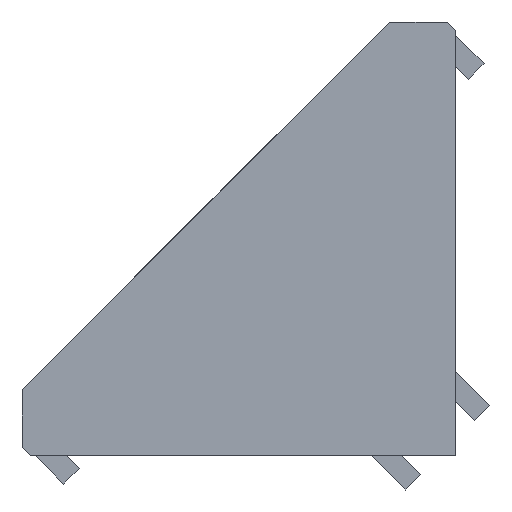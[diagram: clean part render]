
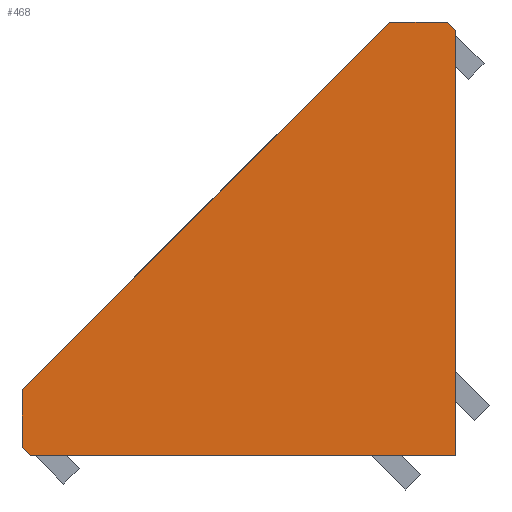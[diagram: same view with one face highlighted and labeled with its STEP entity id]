
A CAD part, left-side view. The second image highlights one B-rep face of the part: STEP entity #468.
In plain terms, the highlighted planar face has unit normal (-1, 0, 0).
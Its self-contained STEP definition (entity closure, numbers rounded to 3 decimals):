
#227 = VERTEX_POINT ( 'NONE', #7505 ) ;
#235 = VERTEX_POINT ( 'NONE', #7504 ) ;
#321 = ORIENTED_EDGE ( 'NONE', *, *, #458, .F. ) ;
#323 = VERTEX_POINT ( 'NONE', #7820 ) ;
#330 = VERTEX_POINT ( 'NONE', #7853 ) ;
#343 = EDGE_LOOP ( 'NONE', ( #321, #439, #450, #422, #386, #388, #428 ) ) ;
#350 = EDGE_CURVE ( 'NONE', #472, #227, #7849, .T. ) ;
#379 = EDGE_CURVE ( 'NONE', #227, #235, #7952, .T. ) ;
#383 = VERTEX_POINT ( 'NONE', #7989 ) ;
#386 = ORIENTED_EDGE ( 'NONE', *, *, #379, .F. ) ;
#388 = ORIENTED_EDGE ( 'NONE', *, *, #350, .F. ) ;
#396 = VERTEX_POINT ( 'NONE', #8051 ) ;
#422 = ORIENTED_EDGE ( 'NONE', *, *, #477, .F. ) ;
#428 = ORIENTED_EDGE ( 'NONE', *, *, #435, .F. ) ;
#435 = EDGE_CURVE ( 'NONE', #383, #472, #8038, .T. ) ;
#439 = ORIENTED_EDGE ( 'NONE', *, *, #471, .F. ) ;
#450 = ORIENTED_EDGE ( 'NONE', *, *, #476, .F. ) ;
#458 = EDGE_CURVE ( 'NONE', #323, #383, #8131, .T. ) ;
#468 = ADVANCED_FACE ( 'NONE', ( #8178 ), #8176, .F. ) ;
#471 = EDGE_CURVE ( 'NONE', #330, #323, #8214, .T. ) ;
#472 = VERTEX_POINT ( 'NONE', #8215 ) ;
#476 = EDGE_CURVE ( 'NONE', #396, #330, #8152, .T. ) ;
#477 = EDGE_CURVE ( 'NONE', #235, #396, #8253, .T. ) ;
#7504 = CARTESIAN_POINT ( 'NONE',  ( -19., 36., 0.7 ) ) ;
#7505 = CARTESIAN_POINT ( 'NONE',  ( -19., 35.3, 0. ) ) ;
#7820 = CARTESIAN_POINT ( 'NONE',  ( -19., 0.7, 36. ) ) ;
#7837 = DIRECTION ( 'NONE',  ( 0., 1., 0. ) ) ;
#7838 = VECTOR ( 'NONE', #7837, 1000. ) ;
#7848 = CARTESIAN_POINT ( 'NONE',  ( -19., 0., 0. ) ) ;
#7849 = LINE ( 'NONE', #7848, #7838 ) ;
#7853 = CARTESIAN_POINT ( 'NONE',  ( -19., 5.5, 36. ) ) ;
#7952 = LINE ( 'NONE', #7984, #7982 ) ;
#7981 = DIRECTION ( 'NONE',  ( 0., 0.707, 0.707 ) ) ;
#7982 = VECTOR ( 'NONE', #7981, 1000. ) ;
#7984 = CARTESIAN_POINT ( 'NONE',  ( -19., 35.3, 0. ) ) ;
#7989 = CARTESIAN_POINT ( 'NONE',  ( -19., 0., 35.3 ) ) ;
#8025 = DIRECTION ( 'NONE',  ( 0., 0., -1. ) ) ;
#8026 = VECTOR ( 'NONE', #8025, 1000. ) ;
#8037 = CARTESIAN_POINT ( 'NONE',  ( -19., 0., 35.3 ) ) ;
#8038 = LINE ( 'NONE', #8037, #8026 ) ;
#8051 = CARTESIAN_POINT ( 'NONE',  ( -19., 36., 5.5 ) ) ;
#8128 = DIRECTION ( 'NONE',  ( 0., -0.707, -0.707 ) ) ;
#8129 = VECTOR ( 'NONE', #8128, 1000. ) ;
#8130 = CARTESIAN_POINT ( 'NONE',  ( -19., 0.7, 36. ) ) ;
#8131 = LINE ( 'NONE', #8130, #8129 ) ;
#8151 = CARTESIAN_POINT ( 'NONE',  ( -19., 36., 5.5 ) ) ;
#8152 = LINE ( 'NONE', #8151, #8258 ) ;
#8171 = AXIS2_PLACEMENT_3D ( 'NONE', #8204, #8203, #8202 ) ;
#8176 = PLANE ( 'NONE',  #8171 ) ;
#8178 = FACE_OUTER_BOUND ( 'NONE', #343, .T. ) ;
#8202 = DIRECTION ( 'NONE',  ( 0., 0., -1. ) ) ;
#8203 = DIRECTION ( 'NONE',  ( 1., 0., 0. ) ) ;
#8204 = CARTESIAN_POINT ( 'NONE',  ( -19., 0., 0. ) ) ;
#8211 = DIRECTION ( 'NONE',  ( 0., -1., 0. ) ) ;
#8212 = VECTOR ( 'NONE', #8211, 1000. ) ;
#8213 = CARTESIAN_POINT ( 'NONE',  ( -19., 5.5, 36. ) ) ;
#8214 = LINE ( 'NONE', #8213, #8212 ) ;
#8215 = CARTESIAN_POINT ( 'NONE',  ( -19., 0., 0. ) ) ;
#8250 = DIRECTION ( 'NONE',  ( 0., 0., 1. ) ) ;
#8251 = VECTOR ( 'NONE', #8250, 1000. ) ;
#8252 = CARTESIAN_POINT ( 'NONE',  ( -19., 36., 0.7 ) ) ;
#8253 = LINE ( 'NONE', #8252, #8251 ) ;
#8257 = DIRECTION ( 'NONE',  ( 0., -0.707, 0.707 ) ) ;
#8258 = VECTOR ( 'NONE', #8257, 1000. ) ;
